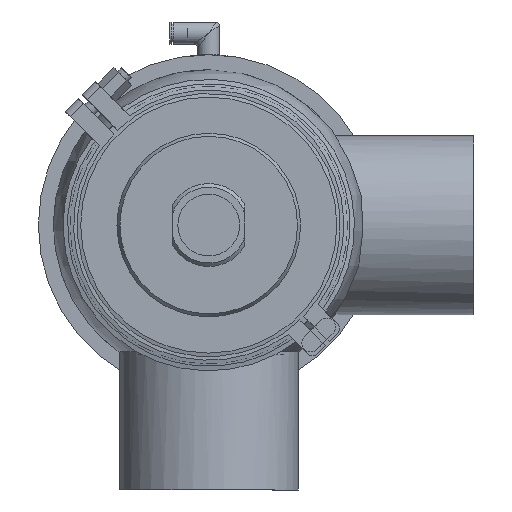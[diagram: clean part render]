
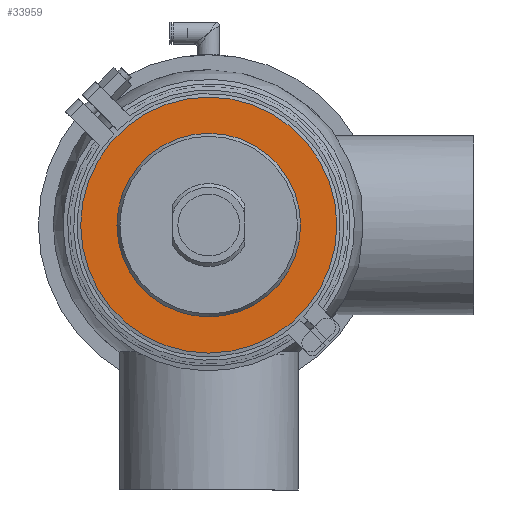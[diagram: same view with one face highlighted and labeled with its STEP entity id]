
A CAD part, front view. The second image highlights one B-rep face of the part: STEP entity #33959.
In plain terms, the highlighted planar face has unit normal (0, -1, 0).
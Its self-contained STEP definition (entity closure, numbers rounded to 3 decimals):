
#1436 = EDGE_LOOP ( 'NONE', ( #8220 ) ) ;
#1984 = DIRECTION ( 'NONE',  ( 0., 0., 1. ) ) ;
#3315 = DIRECTION ( 'NONE',  ( 0., 0., 1. ) ) ;
#3826 = CARTESIAN_POINT ( 'NONE',  ( -72.5, -13., 0. ) ) ;
#8220 = ORIENTED_EDGE ( 'NONE', *, *, #23650, .T. ) ;
#9125 = AXIS2_PLACEMENT_3D ( 'NONE', #3826, #12404, #13037 ) ;
#12404 = DIRECTION ( 'NONE',  ( 0., -1., 0. ) ) ;
#12599 = VERTEX_POINT ( 'NONE', #41958 ) ;
#13037 = DIRECTION ( 'NONE',  ( 0., 0., -1. ) ) ;
#20701 = CARTESIAN_POINT ( 'NONE',  ( 0., -13., 0. ) ) ;
#21894 = CIRCLE ( 'NONE', #38025, 72.5 ) ;
#23650 = EDGE_CURVE ( 'NONE', #59456, #59456, #30943, .T. ) ;
#30943 = CIRCLE ( 'NONE', #31922, 52. ) ;
#31922 = AXIS2_PLACEMENT_3D ( 'NONE', #57021, #32427, #3315 ) ;
#32427 = DIRECTION ( 'NONE',  ( 0., 1., 0. ) ) ;
#33959 = ADVANCED_FACE ( 'NONE', ( #51230, #47123 ), #36420, .T. ) ;
#35443 = CARTESIAN_POINT ( 'NONE',  ( 0., -13., 52. ) ) ;
#36420 = PLANE ( 'NONE',  #9125 ) ;
#38025 = AXIS2_PLACEMENT_3D ( 'NONE', #20701, #60452, #1984 ) ;
#41958 = CARTESIAN_POINT ( 'NONE',  ( 0., -13., 72.5 ) ) ;
#43077 = EDGE_CURVE ( 'NONE', #12599, #12599, #21894, .T. ) ;
#47123 = FACE_OUTER_BOUND ( 'NONE', #61590, .T. ) ;
#51230 = FACE_BOUND ( 'NONE', #1436, .T. ) ;
#53553 = ORIENTED_EDGE ( 'NONE', *, *, #43077, .F. ) ;
#57021 = CARTESIAN_POINT ( 'NONE',  ( 0., -13., 0. ) ) ;
#59456 = VERTEX_POINT ( 'NONE', #35443 ) ;
#60452 = DIRECTION ( 'NONE',  ( 0., 1., 0. ) ) ;
#61590 = EDGE_LOOP ( 'NONE', ( #53553 ) ) ;
